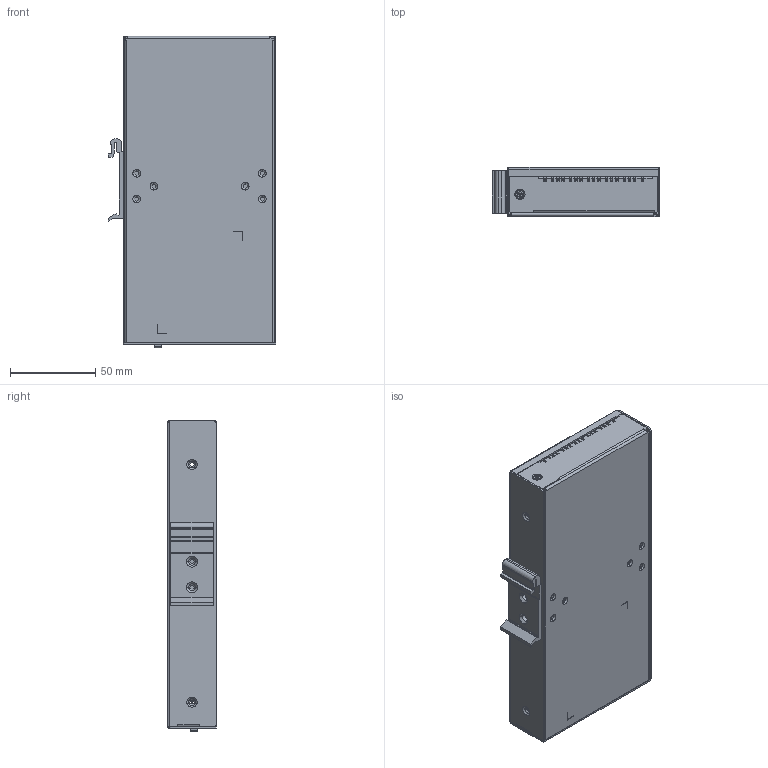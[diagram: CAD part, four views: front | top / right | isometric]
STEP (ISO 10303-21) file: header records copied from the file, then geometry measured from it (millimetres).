
FILE_DESCRIPTION((''),'2;1');
FILE_NAME('3D_ME-10-T','2017-04-12T',('Dacia_Yao'),('PTC'),'PRO/ENGINEER BY PARAMETRIC TECHNOLOGY CORPORATION, 2013230','PRO/ENGINEER BY PARAMETRIC TECHNOLOGY CORPORATION, 2013230','');
FILE_SCHEMA(('AUTOMOTIVE_DESIGN { 1 0 10303 214 1 1 1 1 }'));
Products named in the file (1): 3D_ME-10-T
Bounding box: 98.2 x 28.5 x 182 mm (x, y, z)
Volume: 73454.7 mm3; surface area: 138181.4 mm2
Topology: 2 solids, 13 shells, 2183 faces, 5888 edges, 3787 vertices
Faces by surface type: plane 1319, cylinder 680, cone 80, bspline 48, torus 48, sphere 6, extrusion 2
Entity records: 83643 total; most frequent: CARTESIAN_POINT 19475, ORIENTED_EDGE 11729, DIRECTION 11110, EDGE_CURVE 5882, VECTOR 4034, LINE 4032, VERTEX_POINT 3787, AXIS2_PLACEMENT_3D 3538
